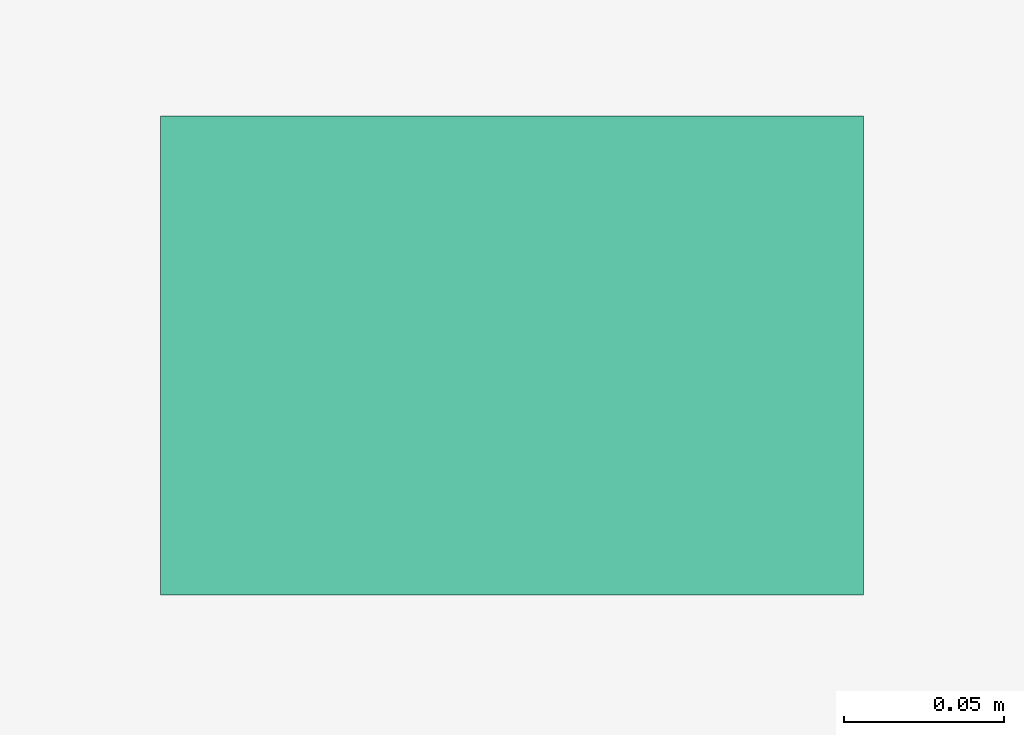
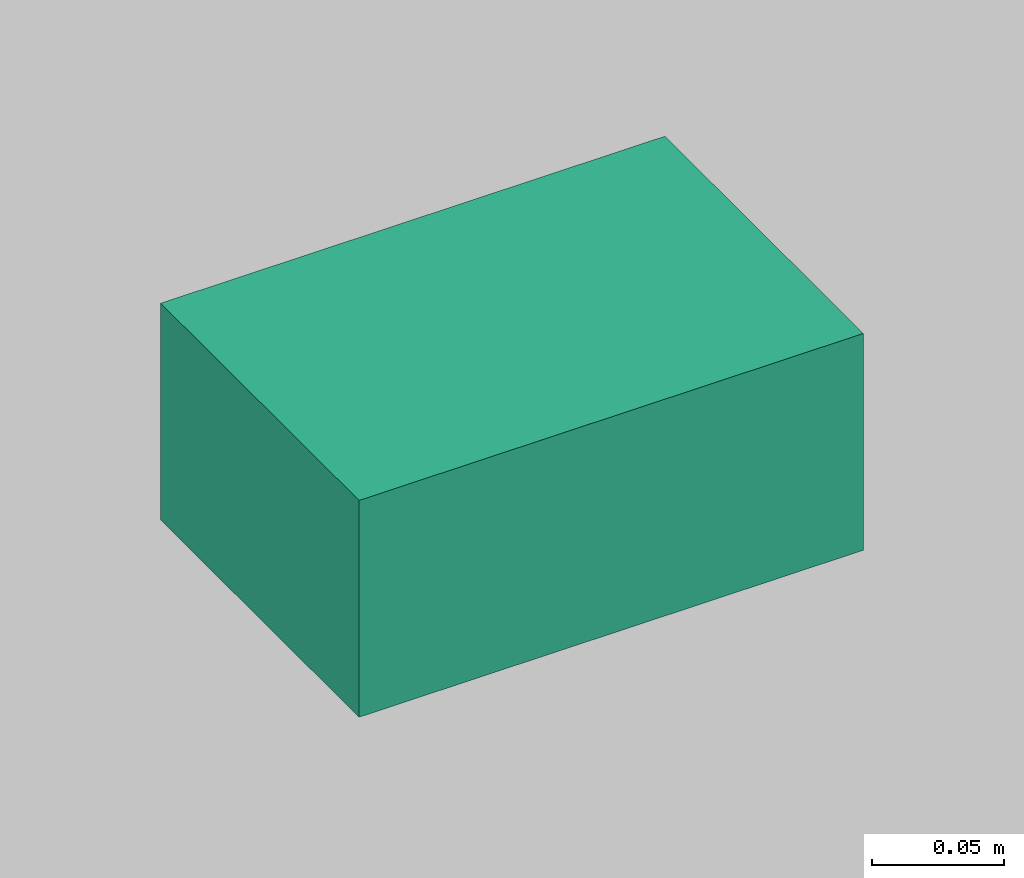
# One storey, part 77 of 128: 1 flow terminal.
"""IFC2X3 building model written with IfcOpenShell, lengths in metres."""

from ifc_helpers import new_model, entity, si_unit, converted_unit, derived_unit, direction, frame, origin, place, context, subcontext, project, spatial, face_set, surface_model, source, transform, mapped, material, type_object, type_shapes, element, save


model = new_model("IFC2X3")

# Units and contexts
model_context = context("Model", 3, precision=1e-05, world=origin(), true_north=direction((6.123031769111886e-17, 1.0)))
body_context = subcontext(model_context, "Body", "Model", "MODEL_VIEW")
ifc_project = project(units=[si_unit("LENGTHUNIT", "METRE"), si_unit("AREAUNIT", "SQUARE_METRE"), converted_unit("PLANEANGLEUNIT", "DEGREE", entity("IfcPlaneAngleMeasure", 0.017453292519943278), si_unit("PLANEANGLEUNIT", "RADIAN"), dimensions=[0, 0, 0, 0, 0, 0, 0]), derived_unit("THERMALTRANSMITTANCEUNIT", [(si_unit("MASSUNIT", "GRAM", prefix="KILO"), 1), (si_unit("THERMODYNAMICTEMPERATUREUNIT", "KELVIN"), -1), (si_unit("TIMEUNIT", "SECOND"), -3)])], contexts=[model_context])

# Site, building, storey
site_placement = place(None, origin())
site = spatial("IfcSite", under=ifc_project, at=site_placement, Name="Default", CompositionType="ELEMENT")
building_placement = place(site_placement, origin())
building = spatial("IfcBuilding", under=site, at=building_placement, CompositionType="ELEMENT")
storey_placement = place(building_placement, origin())
storey = spatial("IfcBuildingStorey", under=building, at=storey_placement, Name="00_RDC CAF", CompositionType="ELEMENT", Elevation=2.4982504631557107e-13)

# Flow terminal
ifc_material = material(Name="ARC - Eq Elec - Blanc")
light_fixture_type = type_object("IfcLightFixtureType", Name="Eq_Elec_Eclairage_secours_BAES:Eq_Elec_Eclairage secours BAES_220x35x100mm", PredefinedType="NOTDEFINED", material=ifc_material)
shared_shape = source(origin(), body_context, "Body", "SurfaceModel", [
    surface_model("IfcFaceBasedSurfaceModel", [(0.02393298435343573, 0.04999999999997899, 0.09396213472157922), (0.022340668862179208, 0.04999999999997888, 0.0857472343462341), (0.018130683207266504, 0.04999999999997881, 0.07955891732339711), (0.012183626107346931, 0.04999999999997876, 0.07496291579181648), (0.005404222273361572, 0.049999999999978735, 0.07133195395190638), (-0.001375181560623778, 0.04999999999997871, 0.06795431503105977), (-0.00732223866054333, 0.04999999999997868, 0.06416653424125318), (-0.011532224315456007, 0.04999999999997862, 0.0593292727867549), (-0.013124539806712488, 0.049999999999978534, 0.052754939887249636), (-0.012243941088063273, 0.04999999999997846, 0.04756785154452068), (-0.009614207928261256, 0.04999999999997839, 0.04328548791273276), (-0.0051991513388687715, 0.04999999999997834, 0.040402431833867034), (0.0010374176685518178, 0.049999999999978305, 0.039340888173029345), (0.007503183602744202, 0.0499999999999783, 0.04029386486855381), (0.012400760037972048, 0.04999999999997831, 0.04242901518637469), (0.015814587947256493, 0.04999999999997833, 0.04456416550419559), (0.018046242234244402, 0.04999999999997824, 0.03870154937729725), (0.015681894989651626, 0.04999999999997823, 0.03700066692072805), (0.011616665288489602, 0.049999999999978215, 0.035094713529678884), (0.00677940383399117, 0.049999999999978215, 0.033707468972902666), (0.0017129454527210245, 0.04999999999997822, 0.03316463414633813), (-0.0074308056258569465, 0.04999999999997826, 0.03451568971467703), (-0.01458416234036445, 0.04999999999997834, 0.03842410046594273), (-0.019204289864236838, 0.04999999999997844, 0.044648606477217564), (-0.0208448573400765, 0.049999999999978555, 0.05292382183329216), (-0.019252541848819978, 0.049999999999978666, 0.06123522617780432), (-0.015042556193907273, 0.04999999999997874, 0.06743560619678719), (-0.009107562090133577, 0.049999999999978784, 0.07205573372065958), (-0.0023160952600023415, 0.04999999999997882, 0.07572288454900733), (0.004475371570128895, 0.049999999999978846, 0.07908846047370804), (0.01041036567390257, 0.04999999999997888, 0.08284005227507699), (0.014620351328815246, 0.04999999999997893, 0.08765318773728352), (0.01621266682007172, 0.04999999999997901, 0.09420339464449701), (0.014921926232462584, 0.04999999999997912, 0.10105517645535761), (0.011315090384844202, 0.04999999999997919, 0.10612163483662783), (0.005802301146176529, 0.04999999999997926, 0.10927007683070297), (-0.0012304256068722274, 0.0499999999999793, 0.11036780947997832), (-0.00948151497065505, 0.049999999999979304, 0.10914944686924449), (-0.015561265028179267, 0.04999999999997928, 0.10650765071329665), (-0.019698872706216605, 0.04999999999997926, 0.10386585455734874), (-0.023932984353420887, 0.049999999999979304, 0.10585624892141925), (-0.023619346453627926, 0.049999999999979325, 0.10796727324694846), (-0.02261811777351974, 0.049999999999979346, 0.10961990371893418), (-0.02009695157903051, 0.04999999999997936, 0.11156204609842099), (-0.015585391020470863, 0.04999999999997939, 0.11382988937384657), (-0.009481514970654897, 0.049999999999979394, 0.11574790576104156), (-0.002171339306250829, 0.04999999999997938, 0.11654406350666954), (0.008299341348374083, 0.049999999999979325, 0.11499999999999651), (0.016586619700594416, 0.04999999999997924, 0.11053669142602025), (0.022002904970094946, 0.049999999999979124, 0.10343158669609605), (0.023932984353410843, -0.014873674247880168, 0.14999999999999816), (0.022340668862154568, -0.006658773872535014, 0.14999999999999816), (0.01813068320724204, -0.000470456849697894, 0.14999999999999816), (0.012183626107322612, 0.004125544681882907, 0.14999999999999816), (0.0054042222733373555, 0.007756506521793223, 0.14999999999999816), (-0.0013751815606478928, 0.011134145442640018, 0.14999999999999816), (-0.007322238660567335, 0.01492192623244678, 0.14999999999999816), (-0.01153222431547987, 0.019759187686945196, 0.14999999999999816), (-0.013124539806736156, 0.0263335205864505, 0.14999999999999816), (-0.012243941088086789, 0.03152060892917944, 0.14999999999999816), (-0.009614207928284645, 0.035802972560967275, 0.14999999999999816), (-0.005199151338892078, 0.03868602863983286, 0.14999999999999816), (0.0010374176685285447, 0.03974757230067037, 0.14999999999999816), (0.007503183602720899, 0.03879459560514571, 0.14999999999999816), (0.012400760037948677, 0.036659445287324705, 0.14999999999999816), (0.015814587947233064, 0.03452429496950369, 0.14999999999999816), (0.018046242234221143, 0.04038691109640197, 0.14999999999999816), (0.015681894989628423, 0.04208779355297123, 0.14999999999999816), (0.011616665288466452, 0.04399374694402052, 0.14999999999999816), (0.006779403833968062, 0.04538099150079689, 0.14999999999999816), (0.0017129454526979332, 0.04592382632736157, 0.14999999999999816), (-0.00743080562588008, 0.04457277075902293, 0.14999999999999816), (-0.014584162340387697, 0.04066436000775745, 0.14999999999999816), (-0.019204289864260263, 0.03443985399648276, 0.14999999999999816), (-0.020844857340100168, 0.026164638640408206, 0.14999999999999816), (-0.019252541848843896, 0.017853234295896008, 0.14999999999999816), (-0.015042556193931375, 0.011652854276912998, 0.14999999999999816), (-0.009107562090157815, 0.007032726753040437, 0.14999999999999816), (-0.002316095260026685, 0.0033655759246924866, 0.14999999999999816), (0.00447537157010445, 0.0, 0.14999999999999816), (0.010410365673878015, -0.0037515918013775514, 0.14999999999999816), (0.014620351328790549, -0.0085647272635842, 0.14999999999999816), (0.016212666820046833, -0.015114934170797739, 0.14999999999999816), (0.014921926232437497, -0.021966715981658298, 0.14999999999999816), (0.011315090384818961, -0.02703317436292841, 0.14999999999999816), (0.005802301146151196, -0.030181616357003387, 0.14999999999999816), (-0.0012304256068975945, -0.03127934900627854, 0.14999999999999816), (-0.009481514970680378, -0.030060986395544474, 0.14999999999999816), (-0.015561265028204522, -0.027419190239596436, 0.14999999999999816), (-0.019698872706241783, -0.02477739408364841, 0.14999999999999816), (-0.023932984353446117, -0.02676778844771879, 0.14999999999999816), (-0.02361934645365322, -0.028878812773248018, 0.14999999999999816), (-0.022618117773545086, -0.030531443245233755, 0.14999999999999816), (-0.02009695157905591, -0.032473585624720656, 0.14999999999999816), (-0.015585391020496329, -0.034741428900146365, 0.14999999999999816), (-0.009481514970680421, -0.03665944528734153, 0.14999999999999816), (-0.0021713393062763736, -0.03745560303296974, 0.14999999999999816), (0.008299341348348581, -0.035911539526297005, 0.14999999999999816), (0.01658661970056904, -0.03144823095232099, 0.14999999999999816), (0.02200290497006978, -0.024343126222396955, 0.14999999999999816), (0.11000000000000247, 0.049999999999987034, 0.14999999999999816), (0.11000000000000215, -0.050000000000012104, 0.14999999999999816), (-0.10999999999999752, -0.05000000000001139, 0.14999999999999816), (-0.1099999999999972, 0.049999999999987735, 0.14999999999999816), (0.11000000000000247, 0.049999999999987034, 0.0), (0.11000000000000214, -0.05000000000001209, 0.0), (-0.10999999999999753, -0.05000000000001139, 0.0), (-0.1099999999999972, 0.049999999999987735, 0.0)], [face_set([[[0, 1, 2, 3, 4, 5, 6, 7, 8, 9, 10, 11, 12, 13, 14, 15, 16, 17, 18, 19, 20, 21, 22, 23, 24, 25, 26, 27, 28, 29, 30, 31, 32, 33, 34, 35, 36, 37, 38, 39, 40, 41, 42, 43, 44, 45, 46, 47, 48, 49]]]), face_set([[[50, 51, 52, 53, 54, 55, 56, 57, 58, 59, 60, 61, 62, 63, 64, 65, 66, 67, 68, 69, 70, 71, 72, 73, 74, 75, 76, 77, 78, 79, 80, 81, 82, 83, 84, 85, 86, 87, 88, 89, 90, 91, 92, 93, 94, 95, 96, 97, 98, 99]]]), face_set([[[100, 101, 102, 103]], [[104, 105, 106, 107]], [[103, 100, 104, 107]], [[102, 103, 107, 106]], [[101, 102, 106, 105]], [[100, 101, 105, 104]]])]),
])
type_shapes(light_fixture_type, [shared_shape])
flow_terminal_placement = place(storey_placement, frame((47.22023323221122, 130.0686384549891, 4.0), z_axis=(0.0, 1.0, 0.0), x_axis=(-1.0, 0.0, 0.0)))
element("IfcFlowTerminal", 1, at=flow_terminal_placement, inside=storey, type_object=light_fixture_type, material=ifc_material, Name="Eq_Elec_Eclairage_secours_BAES:Eq_Elec_Eclairage secours BAES_220x35x100mm", ObjectType="Eq_Elec_Eclairage_secours_BAES:Eq_Elec_Eclairage secours BAES_220x35x100mm", context=body_context, shape_type="MappedRepresentation", body=[
    mapped(shared_shape, transform((0.0, 0.0, 0.0), scale=1.0)),
])

save(model, "model.ifc")
